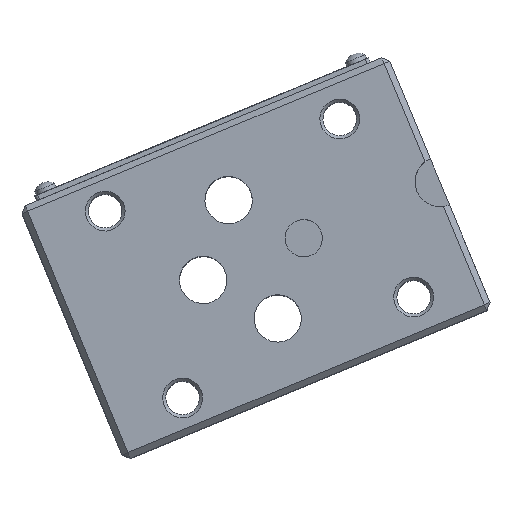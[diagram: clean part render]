
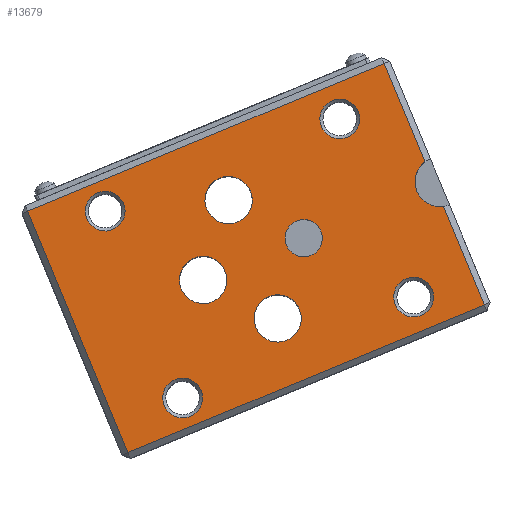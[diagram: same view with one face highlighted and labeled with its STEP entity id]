
A CAD part, top view. The second image highlights one B-rep face of the part: STEP entity #13679.
In plain terms, the highlighted planar face has unit normal (0, 0, 1).
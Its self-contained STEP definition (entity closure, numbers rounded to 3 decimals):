
#3909=LINE('',#39928,#6653);
#3910=LINE('',#39930,#6654);
#3911=LINE('',#39932,#6655);
#3912=LINE('',#39934,#6656);
#3913=LINE('',#39936,#6657);
#6653=VECTOR('',#33260,1.);
#6654=VECTOR('',#33261,1.);
#6655=VECTOR('',#33262,1.);
#6656=VECTOR('',#33263,1.);
#6657=VECTOR('',#33264,1.);
#12612=FACE_BOUND('',#16704,.T.);
#12613=FACE_BOUND('',#16705,.T.);
#12614=FACE_BOUND('',#16706,.T.);
#12615=FACE_BOUND('',#16707,.T.);
#12616=FACE_BOUND('',#16708,.T.);
#12617=FACE_BOUND('',#16709,.T.);
#12618=FACE_BOUND('',#16710,.T.);
#12619=FACE_BOUND('',#16711,.T.);
#12620=FACE_BOUND('',#16712,.T.);
#13679=ADVANCED_FACE('',(#12612,#12613,#12614,#12615,#12616,#12617,#12618,
#12619,#12620),#14632,.T.);
#14632=PLANE('',#28550);
#16704=EDGE_LOOP('',(#22418,#22419,#22420,#22421,#22422,#22423));
#16705=EDGE_LOOP('',(#22424));
#16706=EDGE_LOOP('',(#22425));
#16707=EDGE_LOOP('',(#22426));
#16708=EDGE_LOOP('',(#22427));
#16709=EDGE_LOOP('',(#22428));
#16710=EDGE_LOOP('',(#22429));
#16711=EDGE_LOOP('',(#22430));
#16712=EDGE_LOOP('',(#22431));
#22418=ORIENTED_EDGE('',*,*,#27412,.T.);
#22419=ORIENTED_EDGE('',*,*,#27413,.T.);
#22420=ORIENTED_EDGE('',*,*,#27414,.T.);
#22421=ORIENTED_EDGE('',*,*,#27415,.T.);
#22422=ORIENTED_EDGE('',*,*,#27416,.T.);
#22423=ORIENTED_EDGE('',*,*,#27417,.T.);
#22424=ORIENTED_EDGE('',*,*,#27418,.T.);
#22425=ORIENTED_EDGE('',*,*,#27419,.T.);
#22426=ORIENTED_EDGE('',*,*,#27420,.T.);
#22427=ORIENTED_EDGE('',*,*,#27421,.T.);
#22428=ORIENTED_EDGE('',*,*,#27422,.T.);
#22429=ORIENTED_EDGE('',*,*,#27423,.T.);
#22430=ORIENTED_EDGE('',*,*,#27424,.T.);
#22431=ORIENTED_EDGE('',*,*,#27376,.F.);
#24501=VERTEX_POINT('',#39848);
#24537=VERTEX_POINT('',#39926);
#24538=VERTEX_POINT('',#39927);
#24539=VERTEX_POINT('',#39929);
#24540=VERTEX_POINT('',#39931);
#24541=VERTEX_POINT('',#39933);
#24542=VERTEX_POINT('',#39935);
#24543=VERTEX_POINT('',#39938);
#24544=VERTEX_POINT('',#39940);
#24545=VERTEX_POINT('',#39942);
#24546=VERTEX_POINT('',#39944);
#24547=VERTEX_POINT('',#39946);
#24548=VERTEX_POINT('',#39948);
#24549=VERTEX_POINT('',#39950);
#27376=EDGE_CURVE('',#24501,#24501,#27533,.T.);
#27412=EDGE_CURVE('',#24537,#24538,#27545,.T.);
#27413=EDGE_CURVE('',#24538,#24539,#3909,.T.);
#27414=EDGE_CURVE('',#24539,#24540,#3910,.T.);
#27415=EDGE_CURVE('',#24540,#24541,#3911,.T.);
#27416=EDGE_CURVE('',#24541,#24542,#3912,.T.);
#27417=EDGE_CURVE('',#24542,#24537,#3913,.T.);
#27418=EDGE_CURVE('',#24543,#24543,#27546,.T.);
#27419=EDGE_CURVE('',#24544,#24544,#27547,.T.);
#27420=EDGE_CURVE('',#24545,#24545,#27548,.T.);
#27421=EDGE_CURVE('',#24546,#24546,#27549,.T.);
#27422=EDGE_CURVE('',#24547,#24547,#27550,.T.);
#27423=EDGE_CURVE('',#24548,#24548,#27551,.T.);
#27424=EDGE_CURVE('',#24549,#24549,#27552,.T.);
#27533=CIRCLE('',#28524,3.);
#27545=CIRCLE('',#28542,4.);
#27546=CIRCLE('',#28543,3.2);
#27547=CIRCLE('',#28544,3.2);
#27548=CIRCLE('',#28545,3.2);
#27549=CIRCLE('',#28546,3.2);
#27550=CIRCLE('',#28547,3.8);
#27551=CIRCLE('',#28548,3.8);
#27552=CIRCLE('',#28549,3.8);
#28524=AXIS2_PLACEMENT_3D('',#39847,#33198,#33199);
#28542=AXIS2_PLACEMENT_3D('',#39925,#33258,#33259);
#28543=AXIS2_PLACEMENT_3D('',#39937,#33265,#33266);
#28544=AXIS2_PLACEMENT_3D('',#39939,#33267,#33268);
#28545=AXIS2_PLACEMENT_3D('',#39941,#33269,#33270);
#28546=AXIS2_PLACEMENT_3D('',#39943,#33271,#33272);
#28547=AXIS2_PLACEMENT_3D('',#39945,#33273,#33274);
#28548=AXIS2_PLACEMENT_3D('',#39947,#33275,#33276);
#28549=AXIS2_PLACEMENT_3D('',#39949,#33277,#33278);
#28550=AXIS2_PLACEMENT_3D('',#39951,#33279,#33280);
#33198=DIRECTION('',(0.,0.,1.));
#33199=DIRECTION('',(-0.924,-0.383,0.));
#33258=DIRECTION('',(0.,0.,-1.));
#33259=DIRECTION('',(0.924,0.383,0.));
#33260=DIRECTION('',(-0.383,0.924,0.));
#33261=DIRECTION('',(-0.924,-0.383,0.));
#33262=DIRECTION('',(0.383,-0.924,0.));
#33263=DIRECTION('',(0.924,0.383,0.));
#33264=DIRECTION('',(-0.383,0.924,0.));
#33265=DIRECTION('',(0.,0.,-1.));
#33266=DIRECTION('',(-0.924,-0.383,0.));
#33267=DIRECTION('',(0.,0.,-1.));
#33268=DIRECTION('',(-0.924,-0.383,0.));
#33269=DIRECTION('',(0.,0.,-1.));
#33270=DIRECTION('',(-0.924,-0.383,0.));
#33271=DIRECTION('',(0.,0.,-1.));
#33272=DIRECTION('',(-0.924,-0.383,0.));
#33273=DIRECTION('',(0.,0.,-1.));
#33274=DIRECTION('',(0.924,0.383,0.));
#33275=DIRECTION('',(0.,0.,-1.));
#33276=DIRECTION('',(0.924,0.383,0.));
#33277=DIRECTION('',(0.,0.,-1.));
#33278=DIRECTION('',(0.924,0.383,0.));
#33279=DIRECTION('',(0.,0.,1.));
#33280=DIRECTION('',(0.924,0.383,0.));
#39847=CARTESIAN_POINT('',(368.775,223.038,-30.845));
#39848=CARTESIAN_POINT('',(366.003,221.889,-30.845));
#39925=CARTESIAN_POINT('',(390.667,232.116,-30.845));
#39926=CARTESIAN_POINT('',(391.227,228.156,-30.845));
#39927=CARTESIAN_POINT('',(388.26,235.311,-30.845));
#39928=CARTESIAN_POINT('',(396.063,216.492,-30.845));
#39929=CARTESIAN_POINT('',(381.699,251.131,-30.845));
#39930=CARTESIAN_POINT('',(314.488,223.26,-30.845));
#39931=CARTESIAN_POINT('',(324.428,227.382,-30.845));
#39932=CARTESIAN_POINT('',(338.792,192.743,-30.845));
#39933=CARTESIAN_POINT('',(340.516,188.586,-30.845));
#39934=CARTESIAN_POINT('',(330.576,184.464,-30.845));
#39935=CARTESIAN_POINT('',(397.787,212.335,-30.845));
#39936=CARTESIAN_POINT('',(396.063,216.492,-30.845));
#39937=CARTESIAN_POINT('',(336.87,227.4,-30.845));
#39938=CARTESIAN_POINT('',(333.915,226.174,-30.845));
#39939=CARTESIAN_POINT('',(374.569,242.22,-30.845));
#39940=CARTESIAN_POINT('',(371.613,240.995,-30.845));
#39941=CARTESIAN_POINT('',(386.443,213.585,-30.845));
#39942=CARTESIAN_POINT('',(383.487,212.359,-30.845));
#39943=CARTESIAN_POINT('',(349.32,197.379,-30.845));
#39944=CARTESIAN_POINT('',(346.364,196.153,-30.845));
#39945=CARTESIAN_POINT('',(356.7,229.181,-30.845));
#39946=CARTESIAN_POINT('',(360.211,230.637,-30.845));
#39947=CARTESIAN_POINT('',(352.609,216.335,-30.845));
#39948=CARTESIAN_POINT('',(356.12,217.79,-30.845));
#39949=CARTESIAN_POINT('',(364.591,210.153,-30.845));
#39950=CARTESIAN_POINT('',(368.101,211.608,-30.845));
#39951=CARTESIAN_POINT('',(328.852,188.621,-30.845));
